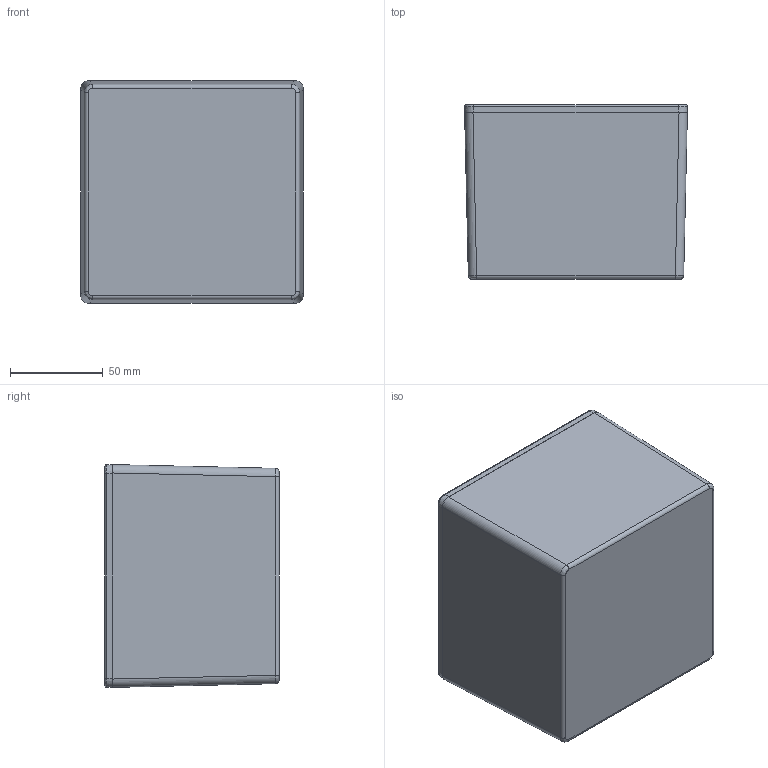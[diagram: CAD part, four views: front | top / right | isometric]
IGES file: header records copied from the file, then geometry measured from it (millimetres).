
Global section: file name: 1590V.iam; native system: Autodesk Inventor 2014; preprocessor: unknown; author: mbeerman; date: 20140728.135011; units: millimetre
Bounding box: 120 x 93.8 x 120 mm (x, y, z)
Volume: 182813 mm3; surface area: 140731.6 mm2
Topology: 6 solids, 6 shells, 450 faces, 1174 edges, 768 vertices
Faces by surface type: plane 235, bspline 103, revolution 72, cylinder 24, cone 16
Full cylindrical faces by diameter (mm): 3.378 x4
